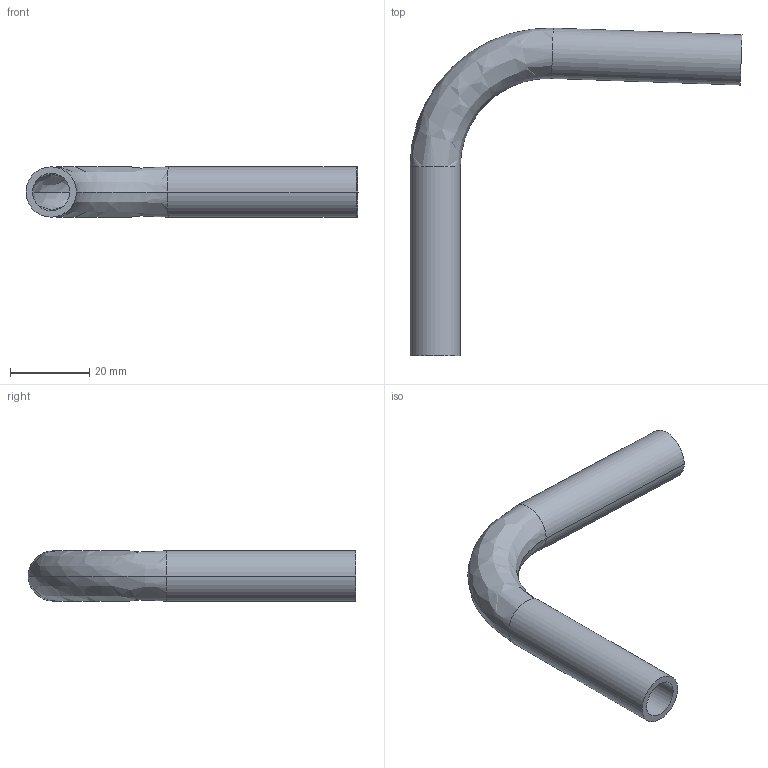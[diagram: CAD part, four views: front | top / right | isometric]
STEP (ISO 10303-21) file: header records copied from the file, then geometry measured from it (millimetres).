
FILE_DESCRIPTION (( 'STEP AP214' ), '1' );
FILE_NAME ('TE2S926L.5-...STEP', '2016-05-22T11:19:37', ( 'eran' ), ( '' ), 'SwSTEP 2.0', 'SolidWorks 2016', '' );
FILE_SCHEMA (( 'AUTOMOTIVE_DESIGN' ));
Length unit declared in the file: millimetre
Products named in the file (1): TE2S926L.5-..
Bounding box: 83.79 x 82.69 x 12.7 mm (x, y, z)
Volume: 8095.5 mm3; surface area: 9927.3 mm2
Topology: 1 solids, 1 shells, 14 faces, 28 edges, 16 vertices
Faces by surface type: cylinder 8, bspline 4, plane 2
Entity records: 450 total; most frequent: CARTESIAN_POINT 119, DIRECTION 70, ORIENTED_EDGE 56, AXIS2_PLACEMENT_3D 31, EDGE_CURVE 28, CIRCLE 20, VERTEX_POINT 16, EDGE_LOOP 16
